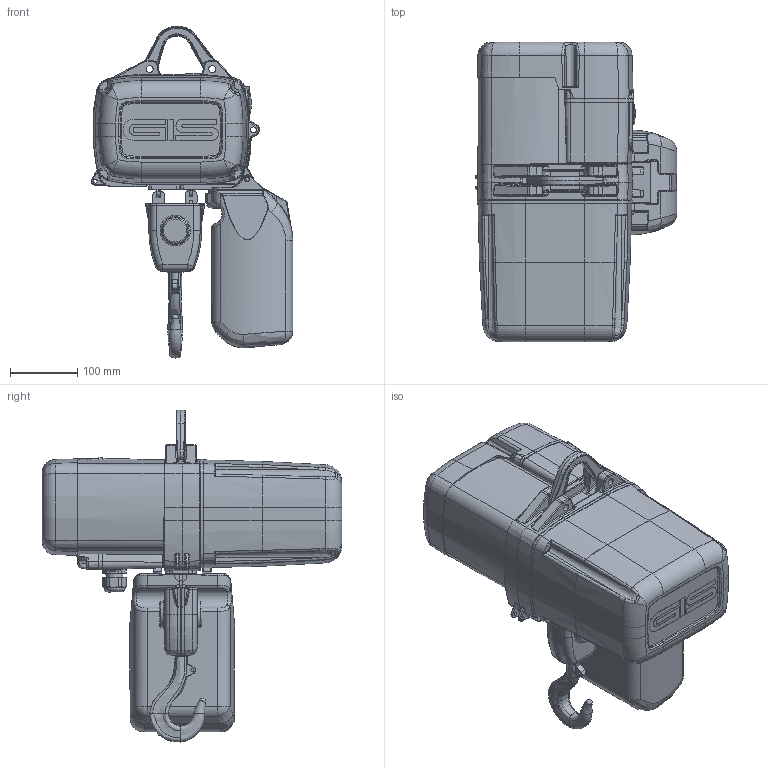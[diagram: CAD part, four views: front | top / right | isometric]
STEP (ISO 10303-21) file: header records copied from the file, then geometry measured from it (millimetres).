
FILE_DESCRIPTION(/* description */ (''),/* implementation_level */ '2;1');
FILE_NAME(/* name */ 'C:\Users\gisbsc\Desktop\Temp\GP 500 Light\Gp 500 2str.stp',/* time_stamp */ '2016-09-21T09:34:44+02:00',/* author */ ('gisbsc'),/* organization */ (''),/* preprocessor_version */ 'ST-DEVELOPER v15.6',/* originating_system */ 'Autodesk Inventor 2015',/* authorisation */ '');
FILE_SCHEMA (('AUTOMOTIVE_DESIGN { 1 0 10303 214 3 1 1 }'));
Length unit declared in the file: millimetre
Products named in the file (2): Gp 500 2str; GP 500 2str
Assembly tree (1 placements, depth 2):
  GP 500 2str
    Gp 500 2str
Bounding box: 298.82 x 444 x 492.07 mm (x, y, z)
Volume: 18311581.9 mm3; surface area: 647227.8 mm2
Topology: 4 solids, 4 shells, 1904 faces, 4884 edges, 2928 vertices
Faces by surface type: bspline 663, cylinder 486, plane 348, torus 257, cone 116, sphere 34
Full cylindrical faces by diameter (mm): 4.2 x1, 4.917 x1, 5.5 x2, 8 x3, 8.5 x4, 10.5 x6, 15 x1, 25 x2, 30 x1, 50 x1
Entity records: 90595 total; most frequent: CARTESIAN_POINT 46113, ORIENTED_EDGE 9486, DIRECTION 8388, EDGE_CURVE 4743, AXIS2_PLACEMENT_3D 3526, VERTEX_POINT 2910, EDGE_LOOP 2005, STYLED_ITEM 1906
